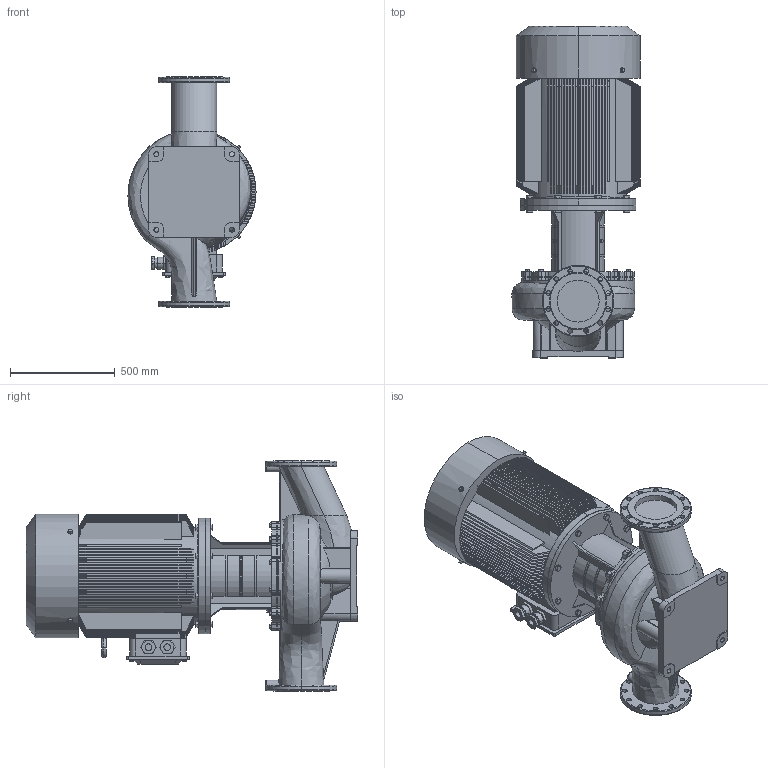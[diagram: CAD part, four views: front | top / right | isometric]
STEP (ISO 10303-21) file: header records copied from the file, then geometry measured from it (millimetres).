
FILE_DESCRIPTION(/* description */ (''),/* implementation_level */ '2;1');
FILE_NAME(/* name */ 'TD200-43 53-4安装尺寸图.stp',/* time_stamp */ '2026-09-07T16:56:42+08:00',/* author */ (''),/* organization */ (''),/* preprocessor_version */ 'ST-DEVELOPER v16.7',/* originating_system */ 'SIEMENS PLM Software NX 1847',/* authorisation */ '');
FILE_SCHEMA (('AP203_CONFIGURATION_CONTROLLED_3D_DESIGN_OF_MECHANICAL_PARTS_AND_ASSEMBLIES_MIM_LF { 1 0 10303 403 2 1 2}'));
Products named in the file (1): Admi55F8EAC4z5ey
Bounding box: 610.34 x 1582 x 1100 mm (x, y, z)
Volume: 319236722.8 mm3; surface area: 10704512.9 mm2
Topology: 1 solids, 11 shells, 1918 faces, 4750 edges, 2967 vertices
Faces by surface type: plane 753, cylinder 533, cone 499, torus 82, bspline 27, sphere 24
Full cylindrical faces by diameter (mm): 10 x1, 13.682 x12, 17.623 x16, 18 x12, 19.64 x12, 25.34 x8, 390 x1, 410 x1, 550 x1
Entity records: 65046 total; most frequent: CARTESIAN_POINT 21017, ORIENTED_EDGE 9166, DIRECTION 9007, EDGE_CURVE 4583, AXIS2_PLACEMENT_3D 3645, VERTEX_POINT 2909, EDGE_LOOP 2240, ADVANCED_FACE 1918
